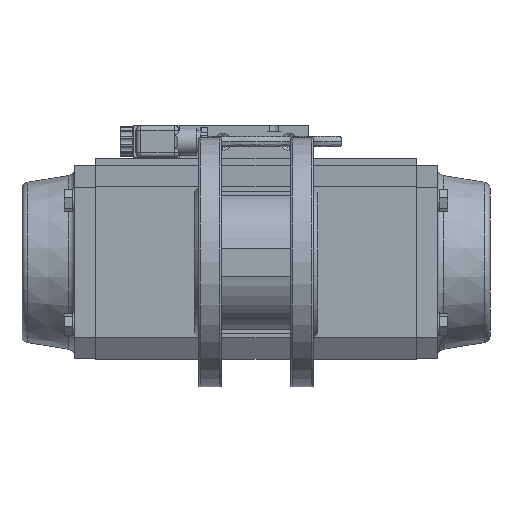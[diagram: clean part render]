
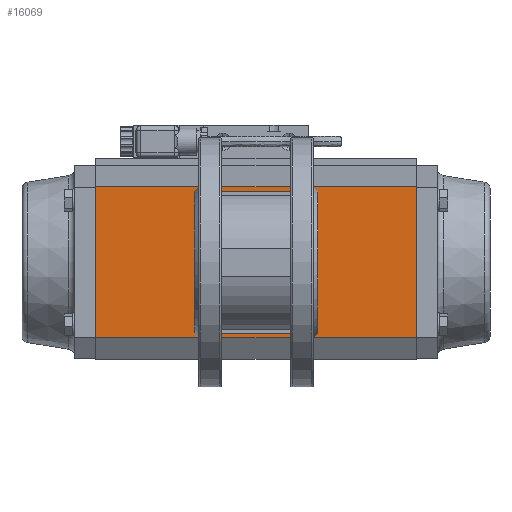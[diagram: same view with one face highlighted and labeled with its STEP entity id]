
A CAD part, front view. The second image highlights one B-rep face of the part: STEP entity #16069.
In plain terms, the highlighted planar face has unit normal (0, -1, 0).
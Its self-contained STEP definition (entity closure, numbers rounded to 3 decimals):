
#41 = EDGE_LOOP ( 'NONE', ( #12738, #12737 ) ) ;
#50 = EDGE_LOOP ( 'NONE', ( #12744, #12743 ) ) ;
#59 = EDGE_LOOP ( 'NONE', ( #12742, #12741 ) ) ;
#70 = EDGE_LOOP ( 'NONE', ( #12746, #12745 ) ) ;
#72 = EDGE_LOOP ( 'NONE', ( #12740, #12739 ) ) ;
#113 = EDGE_LOOP ( 'NONE', ( #12736, #12735, #12734, #12733 ) ) ;
#988 = EDGE_CURVE ( 'NONE', #4751, #4749, #19587, .T. ) ;
#1031 = EDGE_CURVE ( 'NONE', #8480, #8479, #19295, .T. ) ;
#1060 = EDGE_CURVE ( 'NONE', #8475, #8474, #19251, .T. ) ;
#1066 = EDGE_CURVE ( 'NONE', #8470, #8469, #19240, .T. ) ;
#1072 = EDGE_CURVE ( 'NONE', #8465, #8464, #19231, .T. ) ;
#1348 = EDGE_CURVE ( 'NONE', #8334, #8344, #7954, .T. ) ;
#1352 = EDGE_CURVE ( 'NONE', #4749, #4751, #18939, .T. ) ;
#1353 = EDGE_CURVE ( 'NONE', #8479, #8480, #18935, .T. ) ;
#1354 = EDGE_CURVE ( 'NONE', #8474, #8475, #18933, .T. ) ;
#1355 = EDGE_CURVE ( 'NONE', #8469, #8470, #18931, .T. ) ;
#1356 = EDGE_CURVE ( 'NONE', #8464, #8465, #18929, .T. ) ;
#1357 = EDGE_CURVE ( 'NONE', #8333, #8344, #7975, .T. ) ;
#1358 = EDGE_CURVE ( 'NONE', #8335, #8333, #7986, .T. ) ;
#1359 = EDGE_CURVE ( 'NONE', #8335, #8334, #7981, .T. ) ;
#2831 = AXIS2_PLACEMENT_3D ( 'NONE', #14224, #14225, #14226 ) ;
#4749 = VERTEX_POINT ( 'NONE', #20292 ) ;
#4751 = VERTEX_POINT ( 'NONE', #20294 ) ;
#7954 = LINE ( 'NONE', #7956, #18948 ) ;
#7956 = CARTESIAN_POINT ( 'NONE',  ( 50., -71., -106. ) ) ;
#7957 = DIRECTION ( 'NONE',  ( 0., 0., 1. ) ) ;
#7966 = CARTESIAN_POINT ( 'NONE',  ( 0., -71., 0. ) ) ;
#7967 = DIRECTION ( 'NONE',  ( 0., -1., 0. ) ) ;
#7968 = DIRECTION ( 'NONE',  ( 0., 0., -1. ) ) ;
#7969 = CARTESIAN_POINT ( 'NONE',  ( 36.062, -71., 36.062 ) ) ;
#7970 = DIRECTION ( 'NONE',  ( 0., -1., 0. ) ) ;
#7971 = DIRECTION ( 'NONE',  ( 0., 0., -1. ) ) ;
#7972 = CARTESIAN_POINT ( 'NONE',  ( 36.062, -71., -36.062 ) ) ;
#7973 = DIRECTION ( 'NONE',  ( 0., -1., 0. ) ) ;
#7974 = DIRECTION ( 'NONE',  ( 0., 0., -1. ) ) ;
#7975 = LINE ( 'NONE', #7976, #18926 ) ;
#7976 = CARTESIAN_POINT ( 'NONE',  ( -50., -71., 106. ) ) ;
#7977 = CARTESIAN_POINT ( 'NONE',  ( -36.062, -71., -36.062 ) ) ;
#7978 = DIRECTION ( 'NONE',  ( 0., -1., 0. ) ) ;
#7979 = DIRECTION ( 'NONE',  ( 0., 0., -1. ) ) ;
#7981 = LINE ( 'NONE', #7990, #18946 ) ;
#7982 = CARTESIAN_POINT ( 'NONE',  ( -36.062, -71., 36.062 ) ) ;
#7983 = DIRECTION ( 'NONE',  ( 0., -1., 0. ) ) ;
#7984 = DIRECTION ( 'NONE',  ( 0., 0., -1. ) ) ;
#7985 = DIRECTION ( 'NONE',  ( 1., 0., 0. ) ) ;
#7986 = LINE ( 'NONE', #7988, #18924 ) ;
#7988 = CARTESIAN_POINT ( 'NONE',  ( -50., -71., -106. ) ) ;
#7989 = DIRECTION ( 'NONE',  ( 0., 0., 1. ) ) ;
#7990 = CARTESIAN_POINT ( 'NONE',  ( -50., -71., -106. ) ) ;
#7991 = DIRECTION ( 'NONE',  ( 1., 0., 0. ) ) ;
#8333 = VERTEX_POINT ( 'NONE', #20581 ) ;
#8334 = VERTEX_POINT ( 'NONE', #20582 ) ;
#8335 = VERTEX_POINT ( 'NONE', #20583 ) ;
#8344 = VERTEX_POINT ( 'NONE', #20592 ) ;
#8464 = VERTEX_POINT ( 'NONE', #20712 ) ;
#8465 = VERTEX_POINT ( 'NONE', #20713 ) ;
#8469 = VERTEX_POINT ( 'NONE', #20717 ) ;
#8470 = VERTEX_POINT ( 'NONE', #20718 ) ;
#8474 = VERTEX_POINT ( 'NONE', #20722 ) ;
#8475 = VERTEX_POINT ( 'NONE', #20723 ) ;
#8479 = VERTEX_POINT ( 'NONE', #20727 ) ;
#8480 = VERTEX_POINT ( 'NONE', #20728 ) ;
#10995 = CARTESIAN_POINT ( 'NONE',  ( 0., -71., 0. ) ) ;
#10996 = DIRECTION ( 'NONE',  ( 0., -1., 0. ) ) ;
#10997 = DIRECTION ( 'NONE',  ( 0., 0., -1. ) ) ;
#11124 = CARTESIAN_POINT ( 'NONE',  ( 36.062, -71., 36.062 ) ) ;
#11125 = DIRECTION ( 'NONE',  ( 0., -1., 0. ) ) ;
#11126 = DIRECTION ( 'NONE',  ( 0., 0., -1. ) ) ;
#11212 = CARTESIAN_POINT ( 'NONE',  ( 36.062, -71., -36.062 ) ) ;
#11213 = DIRECTION ( 'NONE',  ( 0., -1., 0. ) ) ;
#11214 = DIRECTION ( 'NONE',  ( 0., 0., -1. ) ) ;
#11230 = CARTESIAN_POINT ( 'NONE',  ( -36.062, -71., -36.062 ) ) ;
#11231 = DIRECTION ( 'NONE',  ( 0., -1., 0. ) ) ;
#11232 = DIRECTION ( 'NONE',  ( 0., 0., -1. ) ) ;
#11248 = CARTESIAN_POINT ( 'NONE',  ( -36.062, -71., 36.062 ) ) ;
#11249 = DIRECTION ( 'NONE',  ( 0., -1., 0. ) ) ;
#11250 = DIRECTION ( 'NONE',  ( 0., 0., -1. ) ) ;
#12733 = ORIENTED_EDGE ( 'NONE', *, *, #1359, .T. ) ;
#12734 = ORIENTED_EDGE ( 'NONE', *, *, #1358, .F. ) ;
#12735 = ORIENTED_EDGE ( 'NONE', *, *, #1357, .F. ) ;
#12736 = ORIENTED_EDGE ( 'NONE', *, *, #1348, .T. ) ;
#12737 = ORIENTED_EDGE ( 'NONE', *, *, #1072, .F. ) ;
#12738 = ORIENTED_EDGE ( 'NONE', *, *, #1356, .F. ) ;
#12739 = ORIENTED_EDGE ( 'NONE', *, *, #1066, .F. ) ;
#12740 = ORIENTED_EDGE ( 'NONE', *, *, #1355, .F. ) ;
#12741 = ORIENTED_EDGE ( 'NONE', *, *, #1060, .F. ) ;
#12742 = ORIENTED_EDGE ( 'NONE', *, *, #1354, .F. ) ;
#12743 = ORIENTED_EDGE ( 'NONE', *, *, #1031, .F. ) ;
#12744 = ORIENTED_EDGE ( 'NONE', *, *, #1353, .F. ) ;
#12745 = ORIENTED_EDGE ( 'NONE', *, *, #988, .F. ) ;
#12746 = ORIENTED_EDGE ( 'NONE', *, *, #1352, .F. ) ;
#14212 = FACE_BOUND ( 'NONE', #50, .T. ) ;
#14217 = FACE_BOUND ( 'NONE', #41, .T. ) ;
#14218 = FACE_BOUND ( 'NONE', #70, .T. ) ;
#14219 = FACE_OUTER_BOUND ( 'NONE', #113, .T. ) ;
#14220 = PLANE ( 'NONE',  #2831 ) ;
#14221 = FACE_BOUND ( 'NONE', #59, .T. ) ;
#14223 = FACE_BOUND ( 'NONE', #72, .T. ) ;
#14224 = CARTESIAN_POINT ( 'NONE',  ( -50., -71., -106. ) ) ;
#14225 = DIRECTION ( 'NONE',  ( 0., -1., 0. ) ) ;
#14226 = DIRECTION ( 'NONE',  ( 0., 0., -1. ) ) ;
#16069 = ADVANCED_FACE ( 'NONE', ( #14218, #14212, #14221, #14223, #14217, #14219 ), #14220, .T. ) ;
#18924 = VECTOR ( 'NONE', #7989, 1000. ) ;
#18925 = AXIS2_PLACEMENT_3D ( 'NONE', #7982, #7983, #7984 ) ;
#18926 = VECTOR ( 'NONE', #7985, 1000. ) ;
#18928 = AXIS2_PLACEMENT_3D ( 'NONE', #7977, #7978, #7979 ) ;
#18929 = CIRCLE ( 'NONE', #18925, 4.25 ) ;
#18930 = AXIS2_PLACEMENT_3D ( 'NONE', #7972, #7973, #7974 ) ;
#18931 = CIRCLE ( 'NONE', #18928, 4.25 ) ;
#18932 = AXIS2_PLACEMENT_3D ( 'NONE', #7969, #7970, #7971 ) ;
#18933 = CIRCLE ( 'NONE', #18930, 4.25 ) ;
#18934 = AXIS2_PLACEMENT_3D ( 'NONE', #7966, #7967, #7968 ) ;
#18935 = CIRCLE ( 'NONE', #18932, 4.25 ) ;
#18939 = CIRCLE ( 'NONE', #18934, 35. ) ;
#18946 = VECTOR ( 'NONE', #7991, 1000. ) ;
#18948 = VECTOR ( 'NONE', #7957, 1000. ) ;
#19224 = AXIS2_PLACEMENT_3D ( 'NONE', #11248, #11249, #11250 ) ;
#19231 = CIRCLE ( 'NONE', #19224, 4.25 ) ;
#19236 = AXIS2_PLACEMENT_3D ( 'NONE', #11230, #11231, #11232 ) ;
#19240 = CIRCLE ( 'NONE', #19236, 4.25 ) ;
#19246 = AXIS2_PLACEMENT_3D ( 'NONE', #11212, #11213, #11214 ) ;
#19251 = CIRCLE ( 'NONE', #19246, 4.25 ) ;
#19288 = AXIS2_PLACEMENT_3D ( 'NONE', #11124, #11125, #11126 ) ;
#19295 = CIRCLE ( 'NONE', #19288, 4.25 ) ;
#19565 = AXIS2_PLACEMENT_3D ( 'NONE', #10995, #10996, #10997 ) ;
#19587 = CIRCLE ( 'NONE', #19565, 35. ) ;
#20292 = CARTESIAN_POINT ( 'NONE',  ( 0., -71., -35. ) ) ;
#20294 = CARTESIAN_POINT ( 'NONE',  ( 0., -71., 35. ) ) ;
#20581 = CARTESIAN_POINT ( 'NONE',  ( -50., -71., 106. ) ) ;
#20582 = CARTESIAN_POINT ( 'NONE',  ( 50., -71., -106. ) ) ;
#20583 = CARTESIAN_POINT ( 'NONE',  ( -50., -71., -106. ) ) ;
#20592 = CARTESIAN_POINT ( 'NONE',  ( 50., -71., 106. ) ) ;
#20712 = CARTESIAN_POINT ( 'NONE',  ( -36.062, -71., 31.812 ) ) ;
#20713 = CARTESIAN_POINT ( 'NONE',  ( -36.062, -71., 40.312 ) ) ;
#20717 = CARTESIAN_POINT ( 'NONE',  ( -36.062, -71., -40.312 ) ) ;
#20718 = CARTESIAN_POINT ( 'NONE',  ( -36.062, -71., -31.812 ) ) ;
#20722 = CARTESIAN_POINT ( 'NONE',  ( 36.062, -71., -40.312 ) ) ;
#20723 = CARTESIAN_POINT ( 'NONE',  ( 36.062, -71., -31.812 ) ) ;
#20727 = CARTESIAN_POINT ( 'NONE',  ( 36.062, -71., 31.812 ) ) ;
#20728 = CARTESIAN_POINT ( 'NONE',  ( 36.062, -71., 40.312 ) ) ;
